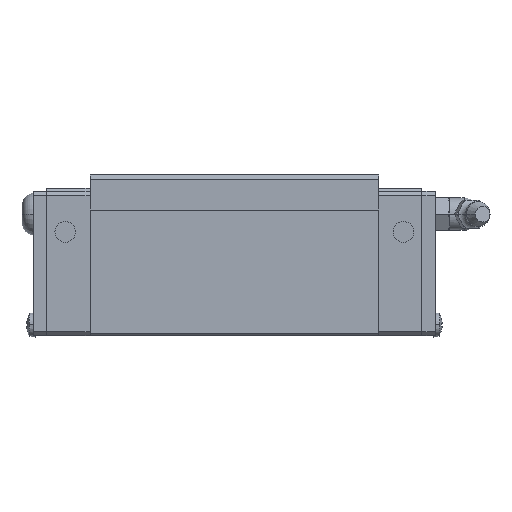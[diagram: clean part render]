
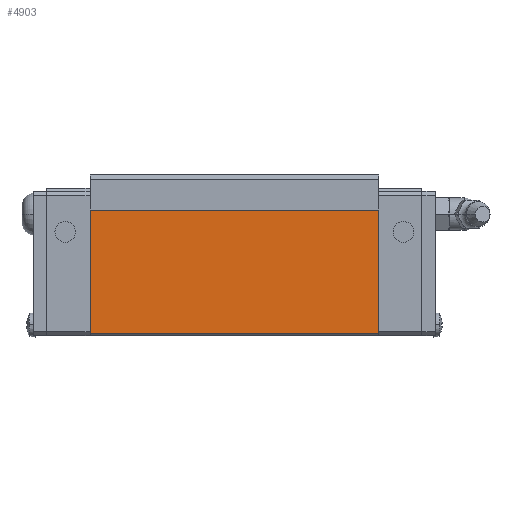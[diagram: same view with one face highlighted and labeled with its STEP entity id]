
A CAD part, left-side view. The second image highlights one B-rep face of the part: STEP entity #4903.
In plain terms, the highlighted planar face has unit normal (-1, 0, 0).
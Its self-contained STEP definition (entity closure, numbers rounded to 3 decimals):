
#2015=VERTEX_POINT('',#5909);
#2801=VERTEX_POINT('',#6764);
#2915=VERTEX_POINT('',#6887);
#3927=EDGE_CURVE('',#2801,#2915,#7999,.T.);
#3967=EDGE_CURVE('',#2801,#2015,#8043,.T.);
#4903=ADVANCED_FACE('',(#9081),#9082,.T.);
#5225=EDGE_CURVE('',#5283,#2015,#9435,.T.);
#5283=VERTEX_POINT('',#9502);
#5657=EDGE_CURVE('',#2915,#5283,#9911,.T.);
#5909=CARTESIAN_POINT('',(-29.575,83.7,36.5));
#6764=CARTESIAN_POINT('',(-29.575,13.7,36.5));
#6887=CARTESIAN_POINT('',(-29.575,13.7,6.575));
#7999=LINE('',#13655,#13656);
#8043=LINE('',#13720,#13721);
#9081=FACE_OUTER_BOUND('',#15349,.T.);
#9082=PLANE('',#15350);
#9435=LINE('',#15893,#15894);
#9502=CARTESIAN_POINT('',(-29.575,83.7,6.575));
#9911=LINE('',#16717,#16718);
#13655=CARTESIAN_POINT('',(-29.575,13.7,19.75));
#13656=VECTOR('',#19249,1.0);
#13720=CARTESIAN_POINT('',(-29.575,48.7,36.5));
#13721=VECTOR('',#19344,1.0);
#15349=EDGE_LOOP('',(#20438,#20439,#20440,#20441));
#15350=AXIS2_PLACEMENT_3D('',#20442,#20443,#20444);
#15893=CARTESIAN_POINT('',(-29.575,83.7,19.75));
#15894=VECTOR('',#20835,1.0);
#16717=CARTESIAN_POINT('',(-29.575,66.2,6.575));
#16718=VECTOR('',#21392,1.0);
#19249=DIRECTION('',(-0.0,-0.0,-1.0));
#19344=DIRECTION('',(0.0,1.0,0.0));
#20438=ORIENTED_EDGE('',*,*,#5225,.F.);
#20439=ORIENTED_EDGE('',*,*,#5657,.F.);
#20440=ORIENTED_EDGE('',*,*,#3927,.F.);
#20441=ORIENTED_EDGE('',*,*,#3967,.T.);
#20442=CARTESIAN_POINT('',(-29.575,48.7,14.0));
#20443=DIRECTION('',(-1.0,0.0,0.0));
#20444=DIRECTION('',(0.0,0.0,1.0));
#20835=DIRECTION('',(0.0,0.0,1.0));
#21392=DIRECTION('',(0.0,1.0,-0.0));
